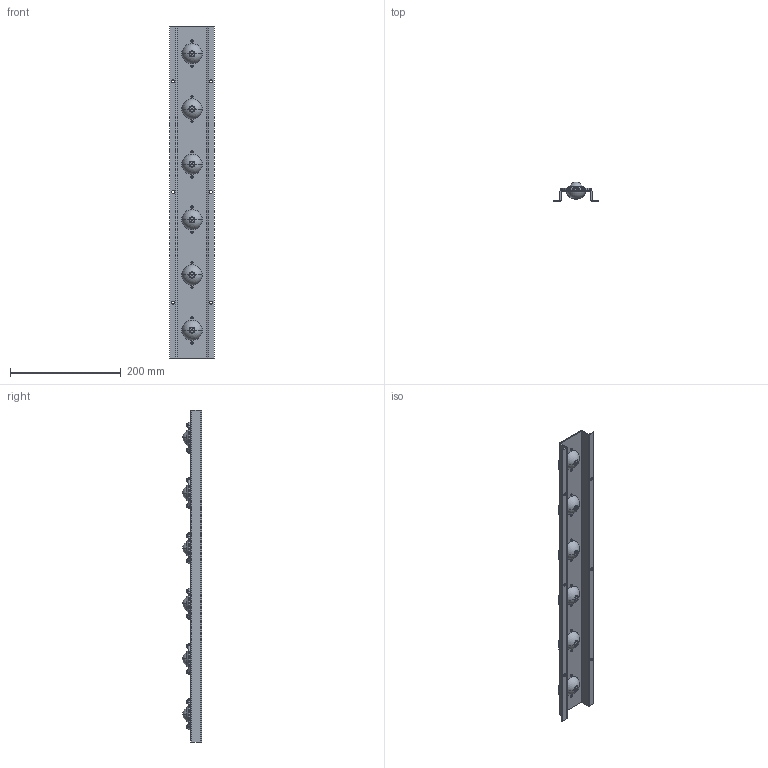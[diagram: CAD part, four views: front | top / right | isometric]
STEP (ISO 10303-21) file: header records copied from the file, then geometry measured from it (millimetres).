
FILE_DESCRIPTION (( 'STEP AP203' ), '1' );
FILE_NAME ('PVU-6.STEP', '2021-10-08T03:39:20', ( '' ), ( '' ), 'SwSTEP 2.0', 'SolidWorks 2013', '' );
FILE_SCHEMA (( 'CONFIG_CONTROL_DESIGN' ));
Length unit declared in the file: millimetre
Products named in the file (1): PVU-6
Bounding box: 80 x 34.6 x 600 mm (x, y, z)
Volume: 266494.3 mm3; surface area: 154659 mm2
Topology: 1 solids, 3 shells, 672 faces, 1620 edges, 1038 vertices
Faces by surface type: plane 312, cylinder 252, torus 84, cone 12, sphere 12
Entity records: 21331 total; most frequent: CARTESIAN_POINT 5449, DIRECTION 3362, ORIENTED_EDGE 3240, EDGE_CURVE 1620, AXIS2_PLACEMENT_3D 1333, VERTEX_POINT 1038, EDGE_LOOP 772, LINE 696
